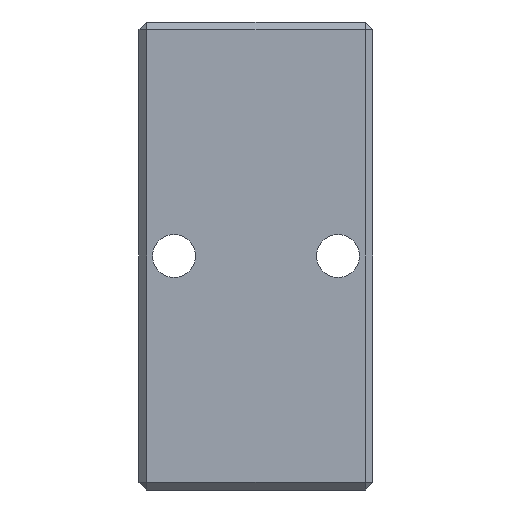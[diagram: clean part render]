
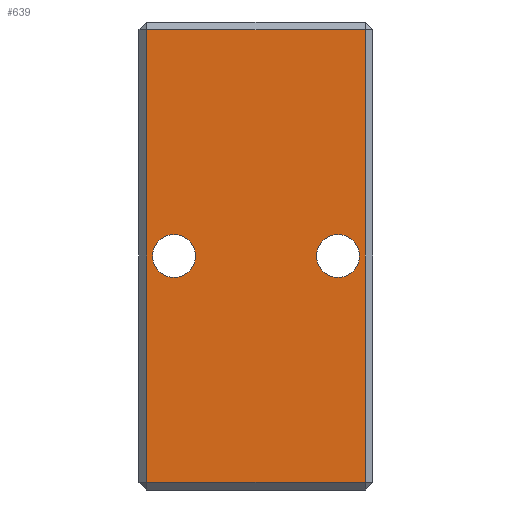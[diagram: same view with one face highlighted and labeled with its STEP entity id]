
A CAD part, left-side view. The second image highlights one B-rep face of the part: STEP entity #639.
In plain terms, the highlighted planar face has unit normal (-1, 0, 0).
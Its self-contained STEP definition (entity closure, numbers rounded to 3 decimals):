
#36=FACE_BOUND('',#151,.T.);
#37=FACE_BOUND('',#152,.T.);
#64=PLANE('',#716);
#101=FACE_OUTER_BOUND('',#150,.T.);
#150=EDGE_LOOP('',(#578,#579,#580,#581));
#151=EDGE_LOOP('',(#582));
#152=EDGE_LOOP('',(#583));
#191=LINE('',#1175,#252);
#201=LINE('',#1192,#262);
#215=LINE('',#1220,#276);
#216=LINE('',#1223,#277);
#252=VECTOR('',#825,10.);
#262=VECTOR('',#843,10.);
#276=VECTOR('',#879,10.);
#277=VECTOR('',#884,10.);
#295=CIRCLE('',#717,2.75);
#296=CIRCLE('',#718,2.75);
#334=VERTEX_POINT('',#1165);
#335=VERTEX_POINT('',#1171);
#336=VERTEX_POINT('',#1178);
#338=VERTEX_POINT('',#1187);
#342=VERTEX_POINT('',#1225);
#343=VERTEX_POINT('',#1227);
#398=EDGE_CURVE('',#334,#335,#191,.T.);
#408=EDGE_CURVE('',#338,#336,#201,.T.);
#422=EDGE_CURVE('',#335,#338,#215,.T.);
#423=EDGE_CURVE('',#336,#334,#216,.T.);
#424=EDGE_CURVE('',#342,#342,#295,.T.);
#425=EDGE_CURVE('',#343,#343,#296,.T.);
#578=ORIENTED_EDGE('',*,*,#408,.F.);
#579=ORIENTED_EDGE('',*,*,#422,.F.);
#580=ORIENTED_EDGE('',*,*,#398,.F.);
#581=ORIENTED_EDGE('',*,*,#423,.F.);
#582=ORIENTED_EDGE('',*,*,#424,.T.);
#583=ORIENTED_EDGE('',*,*,#425,.T.);
#639=ADVANCED_FACE('',(#101,#36,#37),#64,.T.);
#716=AXIS2_PLACEMENT_3D('',#1224,#885,#886);
#717=AXIS2_PLACEMENT_3D('',#1226,#887,#888);
#718=AXIS2_PLACEMENT_3D('',#1228,#889,#890);
#825=DIRECTION('',(0.,0.,-1.));
#843=DIRECTION('',(0.,0.,1.));
#879=DIRECTION('',(0.,1.,0.));
#884=DIRECTION('',(0.,-1.,0.));
#885=DIRECTION('center_axis',(-1.,0.,0.));
#886=DIRECTION('ref_axis',(0.,-1.,0.));
#887=DIRECTION('center_axis',(1.,0.,0.));
#888=DIRECTION('ref_axis',(0.,0.,-1.));
#889=DIRECTION('center_axis',(1.,0.,0.));
#890=DIRECTION('ref_axis',(0.,0.,-1.));
#1165=CARTESIAN_POINT('',(-10.,-14.,29.));
#1171=CARTESIAN_POINT('',(-10.,-14.,-29.));
#1175=CARTESIAN_POINT('',(-10.,-14.,0.));
#1178=CARTESIAN_POINT('',(-10.,14.,29.));
#1187=CARTESIAN_POINT('',(-10.,14.,-29.));
#1192=CARTESIAN_POINT('',(-10.,14.,0.));
#1220=CARTESIAN_POINT('',(-10.,7.5,-29.));
#1223=CARTESIAN_POINT('',(-10.,7.5,29.));
#1224=CARTESIAN_POINT('Origin',(-10.,15.,0.));
#1225=CARTESIAN_POINT('',(-10.,10.5,2.75));
#1226=CARTESIAN_POINT('Origin',(-10.,10.5,0.));
#1227=CARTESIAN_POINT('',(-10.,-10.5,2.75));
#1228=CARTESIAN_POINT('Origin',(-10.,-10.5,0.));
